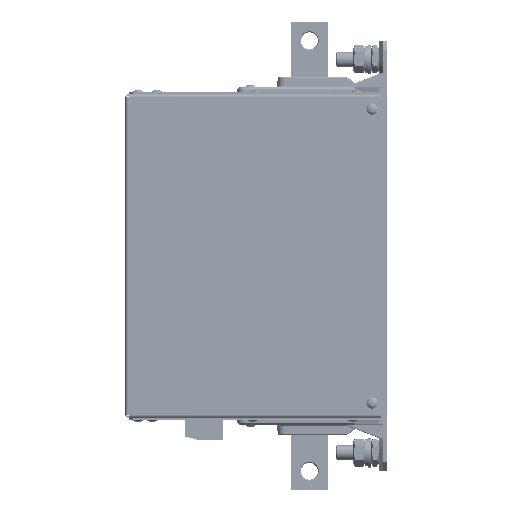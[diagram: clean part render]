
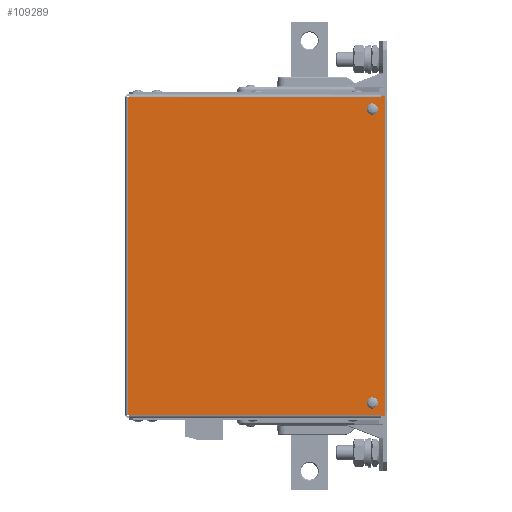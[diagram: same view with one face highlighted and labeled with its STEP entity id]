
A CAD part, left-side view. The second image highlights one B-rep face of the part: STEP entity #109289.
In plain terms, the highlighted planar face has unit normal (-1, 0, 0).
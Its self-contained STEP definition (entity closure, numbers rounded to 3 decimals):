
#6593=LINE('',#167059,#15874);
#6605=LINE('',#167084,#15886);
#6625=LINE('',#167125,#15906);
#6627=LINE('',#167128,#15908);
#6628=LINE('',#167131,#15909);
#6629=LINE('',#167133,#15910);
#6630=LINE('',#167135,#15911);
#6631=LINE('',#167137,#15912);
#6632=LINE('',#167139,#15913);
#6633=LINE('',#167141,#15914);
#6634=LINE('',#167143,#15915);
#6635=LINE('',#167144,#15916);
#15874=VECTOR('',#132372,10.);
#15886=VECTOR('',#132388,10.);
#15906=VECTOR('',#132416,10.);
#15908=VECTOR('',#132420,10.);
#15909=VECTOR('',#132423,10.);
#15910=VECTOR('',#132424,10.);
#15911=VECTOR('',#132425,10.);
#15912=VECTOR('',#132426,10.);
#15913=VECTOR('',#132427,10.);
#15914=VECTOR('',#132428,10.);
#15915=VECTOR('',#132429,10.);
#15916=VECTOR('',#132430,10.);
#23649=PLANE('',#117012);
#28157=FACE_BOUND('',#37566,.T.);
#28158=FACE_BOUND('',#37567,.T.);
#30585=FACE_OUTER_BOUND('',#37565,.T.);
#37565=EDGE_LOOP('',(#78765,#78766,#78767,#78768,#78769,#78770,#78771,#78772,
#78773,#78774,#78775,#78776));
#37566=EDGE_LOOP('',(#78777,#78778));
#37567=EDGE_LOOP('',(#78779,#78780));
#43864=CIRCLE('',#116786,3.);
#43865=CIRCLE('',#116787,3.);
#43910=CIRCLE('',#116871,3.);
#43911=CIRCLE('',#116872,3.);
#48630=VERTEX_POINT('',#166289);
#48631=VERTEX_POINT('',#166293);
#48676=VERTEX_POINT('',#166600);
#48677=VERTEX_POINT('',#166604);
#48785=VERTEX_POINT('',#167053);
#48787=VERTEX_POINT('',#167057);
#48798=VERTEX_POINT('',#167083);
#48814=VERTEX_POINT('',#167122);
#48815=VERTEX_POINT('',#167124);
#48816=VERTEX_POINT('',#167130);
#48817=VERTEX_POINT('',#167132);
#48818=VERTEX_POINT('',#167134);
#48819=VERTEX_POINT('',#167136);
#48820=VERTEX_POINT('',#167138);
#48821=VERTEX_POINT('',#167140);
#48822=VERTEX_POINT('',#167142);
#59718=EDGE_CURVE('',#48631,#48630,#43864,.T.);
#59719=EDGE_CURVE('',#48630,#48631,#43865,.T.);
#59770=EDGE_CURVE('',#48677,#48676,#43910,.T.);
#59771=EDGE_CURVE('',#48676,#48677,#43911,.T.);
#59902=EDGE_CURVE('',#48785,#48787,#6593,.T.);
#59914=EDGE_CURVE('',#48798,#48785,#6605,.T.);
#59934=EDGE_CURVE('',#48815,#48814,#6625,.T.);
#59936=EDGE_CURVE('',#48815,#48787,#6627,.T.);
#59937=EDGE_CURVE('',#48814,#48816,#6628,.T.);
#59938=EDGE_CURVE('',#48816,#48817,#6629,.T.);
#59939=EDGE_CURVE('',#48817,#48818,#6630,.T.);
#59940=EDGE_CURVE('',#48819,#48818,#6631,.T.);
#59941=EDGE_CURVE('',#48819,#48820,#6632,.T.);
#59942=EDGE_CURVE('',#48820,#48821,#6633,.T.);
#59943=EDGE_CURVE('',#48821,#48822,#6634,.T.);
#59944=EDGE_CURVE('',#48822,#48798,#6635,.T.);
#78765=ORIENTED_EDGE('',*,*,#59902,.T.);
#78766=ORIENTED_EDGE('',*,*,#59936,.F.);
#78767=ORIENTED_EDGE('',*,*,#59934,.T.);
#78768=ORIENTED_EDGE('',*,*,#59937,.T.);
#78769=ORIENTED_EDGE('',*,*,#59938,.T.);
#78770=ORIENTED_EDGE('',*,*,#59939,.T.);
#78771=ORIENTED_EDGE('',*,*,#59940,.F.);
#78772=ORIENTED_EDGE('',*,*,#59941,.T.);
#78773=ORIENTED_EDGE('',*,*,#59942,.T.);
#78774=ORIENTED_EDGE('',*,*,#59943,.T.);
#78775=ORIENTED_EDGE('',*,*,#59944,.T.);
#78776=ORIENTED_EDGE('',*,*,#59914,.T.);
#78777=ORIENTED_EDGE('',*,*,#59718,.T.);
#78778=ORIENTED_EDGE('',*,*,#59719,.T.);
#78779=ORIENTED_EDGE('',*,*,#59770,.T.);
#78780=ORIENTED_EDGE('',*,*,#59771,.T.);
#109289=ADVANCED_FACE('',(#30585,#28157,#28158),#23649,.T.);
#116786=AXIS2_PLACEMENT_3D('',#166294,#131874,#131875);
#116787=AXIS2_PLACEMENT_3D('',#166295,#131876,#131877);
#116871=AXIS2_PLACEMENT_3D('',#166605,#132044,#132045);
#116872=AXIS2_PLACEMENT_3D('',#166606,#132046,#132047);
#117012=AXIS2_PLACEMENT_3D('',#167129,#132421,#132422);
#131874=DIRECTION('center_axis',(1.,0.,0.));
#131875=DIRECTION('ref_axis',(0.,0.,1.));
#131876=DIRECTION('center_axis',(1.,0.,0.));
#131877=DIRECTION('ref_axis',(0.,0.,1.));
#132044=DIRECTION('center_axis',(1.,0.,0.));
#132045=DIRECTION('ref_axis',(0.,0.,1.));
#132046=DIRECTION('center_axis',(1.,0.,0.));
#132047=DIRECTION('ref_axis',(0.,0.,1.));
#132372=DIRECTION('',(0.,-1.,0.));
#132388=DIRECTION('',(0.,0.,-1.));
#132416=DIRECTION('',(0.,1.,0.));
#132420=DIRECTION('',(0.,0.,-1.));
#132421=DIRECTION('center_axis',(-1.,0.,0.));
#132422=DIRECTION('ref_axis',(0.,-1.,0.));
#132423=DIRECTION('',(0.,0.,-1.));
#132424=DIRECTION('',(0.,1.,0.));
#132425=DIRECTION('',(0.,0.,1.));
#132426=DIRECTION('',(0.,-1.,0.));
#132427=DIRECTION('',(0.,0.,-1.));
#132428=DIRECTION('',(0.,-1.,0.));
#132429=DIRECTION('',(0.,0.,1.));
#132430=DIRECTION('',(0.,-1.,0.));
#166289=CARTESIAN_POINT('',(-125.,8.,-81.5));
#166293=CARTESIAN_POINT('',(-125.,8.,-75.5));
#166294=CARTESIAN_POINT('Origin',(-125.,8.,-78.5));
#166295=CARTESIAN_POINT('Origin',(-125.,8.,-78.5));
#166600=CARTESIAN_POINT('',(-125.,8.,75.5));
#166604=CARTESIAN_POINT('',(-125.,8.,81.5));
#166605=CARTESIAN_POINT('Origin',(-125.,8.,78.5));
#166606=CARTESIAN_POINT('Origin',(-125.,8.,78.5));
#167053=CARTESIAN_POINT('',(-125.,3.49,-85.5));
#167057=CARTESIAN_POINT('',(-125.,1.,-85.5));
#167059=CARTESIAN_POINT('',(-125.,65.225,-85.5));
#167083=CARTESIAN_POINT('',(-125.,3.49,-84.69));
#167084=CARTESIAN_POINT('',(-125.,3.49,-42.345));
#167122=CARTESIAN_POINT('',(-125.,3.49,85.5));
#167124=CARTESIAN_POINT('',(-125.,1.,85.5));
#167125=CARTESIAN_POINT('',(-125.,65.225,85.5));
#167128=CARTESIAN_POINT('',(-125.,1.,86.5));
#167129=CARTESIAN_POINT('Origin',(-125.,128.205,84.695));
#167130=CARTESIAN_POINT('',(-125.,3.49,84.69));
#167131=CARTESIAN_POINT('',(-125.,3.49,42.345));
#167132=CARTESIAN_POINT('',(-125.,3.5,84.69));
#167133=CARTESIAN_POINT('',(-125.,37.,84.69));
#167134=CARTESIAN_POINT('',(-125.,3.5,84.7));
#167135=CARTESIAN_POINT('',(-125.,3.5,43.25));
#167136=CARTESIAN_POINT('',(-125.,138.2,84.7));
#167137=CARTESIAN_POINT('',(-125.,128.21,84.7));
#167138=CARTESIAN_POINT('',(-125.,138.2,-84.7));
#167139=CARTESIAN_POINT('',(-125.,138.2,0.));
#167140=CARTESIAN_POINT('',(-125.,3.5,-84.7));
#167141=CARTESIAN_POINT('',(-125.,99.35,-84.7));
#167142=CARTESIAN_POINT('',(-125.,3.5,-84.69));
#167143=CARTESIAN_POINT('',(-125.,3.5,-43.25));
#167144=CARTESIAN_POINT('',(-125.,37.,-84.69));
